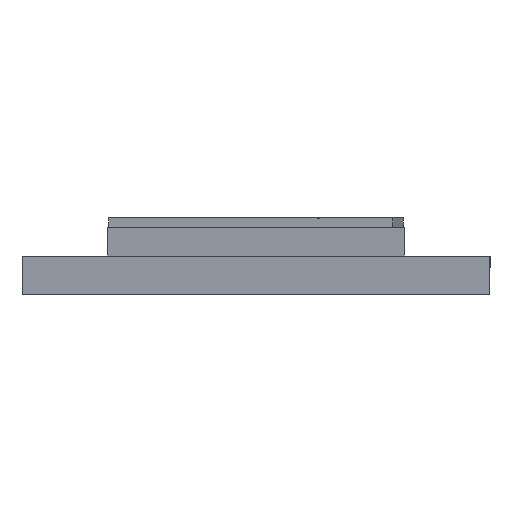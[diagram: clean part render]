
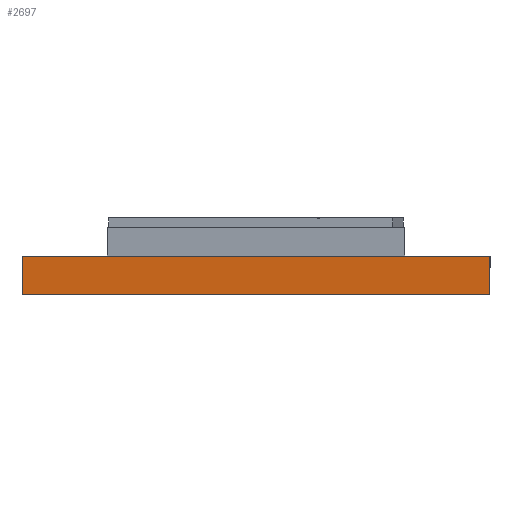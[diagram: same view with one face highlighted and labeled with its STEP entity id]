
A CAD part, left-side view. The second image highlights one B-rep face of the part: STEP entity #2697.
In plain terms, the highlighted planar face has unit normal (-0.99, 0.139, 0).
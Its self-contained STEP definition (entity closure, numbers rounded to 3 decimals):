
#212 = CARTESIAN_POINT ( 'NONE',  ( -3.439, -25., 0. ) ) ;
#227 = VECTOR ( 'NONE', #2757, 1000. ) ;
#297 = EDGE_CURVE ( 'NONE', #986, #806, #3021, .T. ) ;
#338 = VECTOR ( 'NONE', #2101, 1000. ) ;
#432 = VECTOR ( 'NONE', #864, 1000. ) ;
#530 = AXIS2_PLACEMENT_3D ( 'NONE', #1121, #3005, #1347 ) ;
#576 = ORIENTED_EDGE ( 'NONE', *, *, #1606, .T. ) ;
#610 = ORIENTED_EDGE ( 'NONE', *, *, #2177, .F. ) ;
#661 = VERTEX_POINT ( 'NONE', #2091 ) ;
#806 = VERTEX_POINT ( 'NONE', #2973 ) ;
#864 = DIRECTION ( 'NONE',  ( 0.139, 0.99, 0. ) ) ;
#986 = VERTEX_POINT ( 'NONE', #1590 ) ;
#1121 = CARTESIAN_POINT ( 'NONE',  ( -3.439, -25., 4. ) ) ;
#1347 = DIRECTION ( 'NONE',  ( 0., 0., 1. ) ) ;
#1403 = ORIENTED_EDGE ( 'NONE', *, *, #297, .T. ) ;
#1590 = CARTESIAN_POINT ( 'NONE',  ( -3.368, -24.5, 0. ) ) ;
#1606 = EDGE_CURVE ( 'NONE', #661, #2437, #2854, .T. ) ;
#1667 = EDGE_LOOP ( 'NONE', ( #610, #1403, #1895, #576 ) ) ;
#1795 = PLANE ( 'NONE',  #530 ) ;
#1823 = CARTESIAN_POINT ( 'NONE',  ( 3.518, 24.5, 4. ) ) ;
#1844 = VECTOR ( 'NONE', #2631, 1000. ) ;
#1895 = ORIENTED_EDGE ( 'NONE', *, *, #3077, .T. ) ;
#2091 = CARTESIAN_POINT ( 'NONE',  ( 3.518, 24.5, 4. ) ) ;
#2101 = DIRECTION ( 'NONE',  ( 0., 0., -1. ) ) ;
#2177 = EDGE_CURVE ( 'NONE', #986, #2437, #2575, .T. ) ;
#2431 = CARTESIAN_POINT ( 'NONE',  ( 3.518, 24.5, 0. ) ) ;
#2437 = VERTEX_POINT ( 'NONE', #2431 ) ;
#2575 = LINE ( 'NONE', #212, #432 ) ;
#2631 = DIRECTION ( 'NONE',  ( 0., 0., 1. ) ) ;
#2697 = ADVANCED_FACE ( 'NONE', ( #2749 ), #1795, .T. ) ;
#2749 = FACE_OUTER_BOUND ( 'NONE', #1667, .T. ) ;
#2757 = DIRECTION ( 'NONE',  ( 0.139, 0.99, 0. ) ) ;
#2851 = LINE ( 'NONE', #2909, #227 ) ;
#2854 = LINE ( 'NONE', #1823, #338 ) ;
#2909 = CARTESIAN_POINT ( 'NONE',  ( -3.439, -25., 4. ) ) ;
#2973 = CARTESIAN_POINT ( 'NONE',  ( -3.368, -24.5, 4. ) ) ;
#3005 = DIRECTION ( 'NONE',  ( -0.99, 0.139, 0. ) ) ;
#3021 = LINE ( 'NONE', #3058, #1844 ) ;
#3058 = CARTESIAN_POINT ( 'NONE',  ( -3.368, -24.5, 4. ) ) ;
#3077 = EDGE_CURVE ( 'NONE', #806, #661, #2851, .T. ) ;
